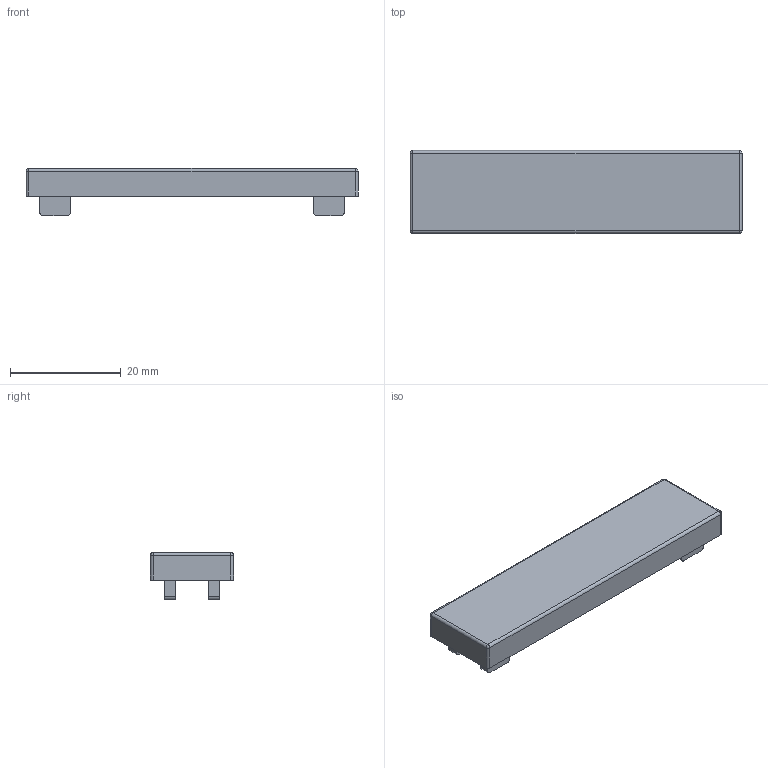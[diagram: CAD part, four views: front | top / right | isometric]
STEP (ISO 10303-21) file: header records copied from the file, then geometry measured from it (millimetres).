
FILE_DESCRIPTION (( 'STEP AP203' ), '1' );
FILE_NAME ('DEC1560.STEP', '2022-06-23T05:31:29', ( '' ), ( '' ), 'SwSTEP 2.0', 'SolidWorks 2017', '' );
FILE_SCHEMA (( 'CONFIG_CONTROL_DESIGN' ));
Length unit declared in the file: millimetre
Products named in the file (1): DEC1560
Bounding box: 60 x 15 x 8.5 mm (x, y, z)
Volume: 2404.1 mm3; surface area: 3411.9 mm2
Topology: 1 solids, 1 shells, 51 faces, 124 edges, 76 vertices
Faces by surface type: plane 31, cylinder 16, sphere 4
Entity records: 1527 total; most frequent: DIRECTION 256, CARTESIAN_POINT 248, ORIENTED_EDGE 240, EDGE_CURVE 120, VECTOR 88, LINE 88, AXIS2_PLACEMENT_3D 84, VERTEX_POINT 76
